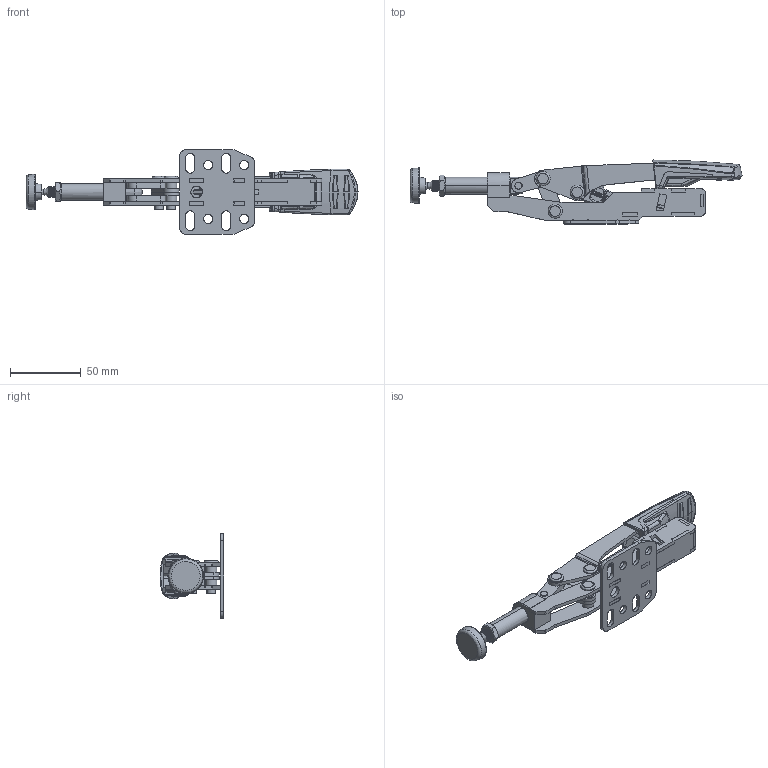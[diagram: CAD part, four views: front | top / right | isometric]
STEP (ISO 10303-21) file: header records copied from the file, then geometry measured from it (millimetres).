
FILE_DESCRIPTION( ('This file contains a STEP AP42 implementation' ,'as created by ZW3D STEP Interface translator.') ,'2;1' );
FILE_NAME( 'STC-IHH25.stp' ,'20 7 2.113856', (''), ('ZWCAD Software Co.'), 'Version 1.0', 'ZW3D to STEP translator', '' );
FILE_SCHEMA(('AUTOMOTIVE_DESIGN'));
Length unit declared in the file: millimetre
Products named in the file (36): 0; 3205366c_STC-IHH251; 3101721c_Grundpl_kp_IHH25; 3008957b_Grundpl_HH50; 3008970b_Seitenwand_re; 3008971b_Seitenwand_li; 3008958a Keilauflage; 3008959a_Deckplatte; 3008977b_Auge_IHH25; 3008979a_Schubstange; 3008973a_Spannarm-Kurz; 3008974a_Spannarm-lang; 3008972b_Distanz; 3008975a_Bolzen; 3008775b_M8x58; 3008776a; 3008780a; 3000869_Schutzkappe_D22; 3101716a_Hebel_kp-HH50; 3008965a_Hebel-HH50re; 3008964a_Hebel-HH50li; 3008966a_2K Griff HH50; 3008955a_Niete; 3008962a_Druckhebel; 3008761a; 3008760a; 3008762a_Gleitblech; 3008763a; 3008765a; 3008766a_Drehfeder S1; 3008766a_Drehfeder S2; 3008767a_Druckfeder einbau; 3008747a; 3008748b; 3008984a_Federhalter_HH50; 3008985a_Deckel_HH50
Assembly tree (40 placements, depth 3):
  0
  3205366c_STC-IHH251
    3101721c_Grundpl_kp_IHH25
      3008957b_Grundpl_HH50
      3008970b_Seitenwand_re
      3008971b_Seitenwand_li
      3008958a Keilauflage
      3008959a_Deckplatte
      3008977b_Auge_IHH25
    3008979a_Schubstange
    3008973a_Spannarm-Kurz  x2
    3008974a_Spannarm-lang  x2
    3008972b_Distanz  x2
    3008975a_Bolzen
    3008775b_M8x58
    3008776a
    3008780a
    3000869_Schutzkappe_D22
    3101716a_Hebel_kp-HH50
      3008965a_Hebel-HH50re
      3008964a_Hebel-HH50li
      3008966a_2K Griff HH50
    3008955a_Niete  x3
    3008962a_Druckhebel
    3008761a
    3008760a
    3008762a_Gleitblech
    3008763a
    3008765a
    3008766a_Drehfeder S1
    3008766a_Drehfeder S2
    3008767a_Druckfeder einbau  x2
    3008747a
    3008748b
    3008984a_Federhalter_HH50
    3008985a_Deckel_HH50
Bounding box: 234.46 x 45.16 x 60 mm (x, y, z)
Volume: 78821.2 mm3; surface area: 68346.6 mm2
Topology: 39 solids, 39 shells, 1387 faces, 3526 edges, 2369 vertices
Faces by surface type: bspline 1387
Entity records: 912843 total; most frequent: CARTESIAN_POINT 890749, ORIENTED_EDGE 6558, EDGE_CURVE 3279, B_SPLINE_CURVE_WITH_KNOTS 2596, VERTEX_POINT 2031, EDGE_LOOP 1468, FACE_OUTER_BOUND 1345, ADVANCED_FACE 1345
